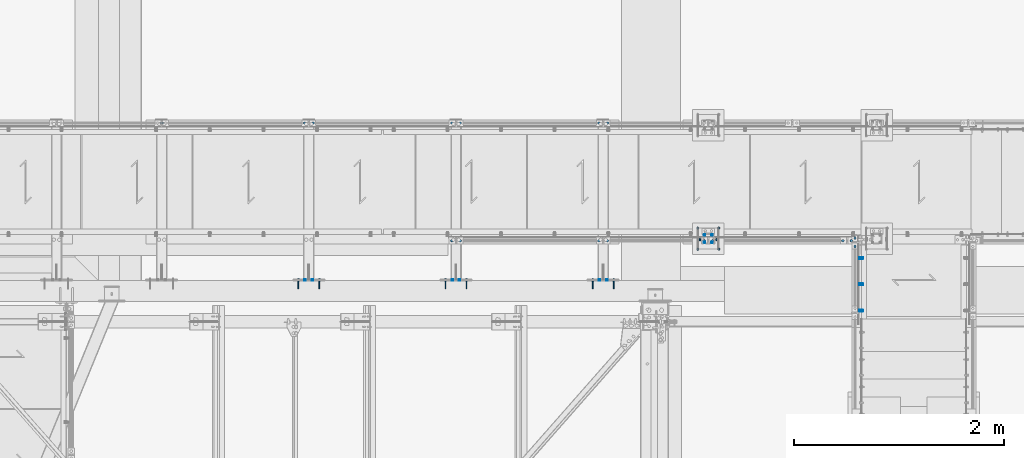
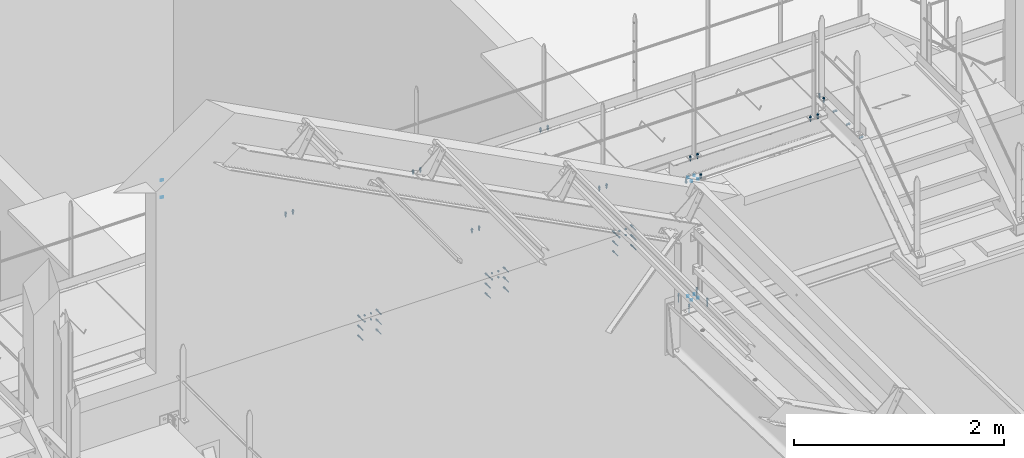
# One storey, part 181 of 362: 20 mechanical fasteners.
"""IFC2X3 building model written with IfcOpenShell, lengths in millimetres."""

from ifc_helpers import new_model, si_unit, frame, frame_2d, origin_with_axes, origin_2d_with_axis, place, context, subcontext, project, spatial, polyline, circle_curve, parameter, trimmed, segment, composite_curve, circle, outline, extrude, source, transform, mapped, material, type_object, element, save


model = new_model("IFC2X3")

# Units and contexts
model_context = context("Model", 3, precision=1e-05, world=origin_with_axes())
body_context = subcontext(model_context, "Body", "Model", "MODEL_VIEW")
ifc_project = project(units=[si_unit("LENGTHUNIT", "METRE", prefix="MILLI"), si_unit("AREAUNIT", "SQUARE_METRE"), si_unit("VOLUMEUNIT", "CUBIC_METRE"), si_unit("MASSUNIT", "GRAM", prefix="KILO"), si_unit("TIMEUNIT", "SECOND"), si_unit("PLANEANGLEUNIT", "RADIAN"), si_unit("SOLIDANGLEUNIT", "STERADIAN"), si_unit("THERMODYNAMICTEMPERATUREUNIT", "DEGREE_CELSIUS"), si_unit("LUMINOUSINTENSITYUNIT", "LUMEN")], contexts=[model_context])

# Site, building, storey
site_placement = place(None, origin_with_axes())
site = spatial("IfcSite", under=ifc_project, at=site_placement, Name="Undefined", CompositionType="ELEMENT")
building_placement = place(site_placement, origin_with_axes())
building = spatial("IfcBuilding", under=site, at=building_placement, Name="Undefined", CompositionType="ELEMENT")
storey_placement = place(building_placement, origin_with_axes())
storey = spatial("IfcBuildingStorey", under=building, at=storey_placement, Name="Undefined", CompositionType="ELEMENT", Elevation=0.0)

# Mechanical fasteners
ifc_material_1 = material(Name="8.8-SB-GALVA")
mechanical_fastener_type = type_object("IfcMechanicalFastenerType", Name="Bolt assembly")
shared_shape_1 = source(origin_with_axes(), body_context, "Body", "SweptSolid", [
    extrude(circle(Radius=7.0, at=origin_2d_with_axis()), frame((0.0, -0.10007666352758, 0.0), z_axis=(0.0, 1.0, 0.0), x_axis=(1.0, 0.0, 0.0)), (0.0, 0.0, 1.0), 12.9),
    extrude(outline(composite_curve([segment(polyline([(-7.0, 7.0), (7.0, 7.0)]), True, "CONTINUOUS"), segment(trimmed(circle_curve(frame_2d((7.0, 0.0), x_axis=(0.0, 1.0)), 7.0), [parameter(0.0)], [parameter(3.14159265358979)], False, "PARAMETER"), True, "CONTINUOUS"), segment(polyline([(7.0, -7.0), (-7.0, -7.0)]), True, "CONTINUOUS"), segment(trimmed(circle_curve(frame_2d((-7.0, 0.0), x_axis=(0.0, -1.0)), 7.0), [parameter(0.0)], [parameter(3.14159265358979)], False, "PARAMETER"), True, "DISCONTINUOUS")], self_intersect=False)), frame((0.0, -9.9, 0.0), z_axis=(0.0, 1.0, 0.0), x_axis=(1.0, 0.0, 0.0)), (0.0, 0.0, 1.0), 10.0),
    extrude(outline(polyline([(10.39230484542, 0.0), (5.19615242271, 9.00000000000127), (-5.19615242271, 9.00000000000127), (-10.39230484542, 0.0), (-5.19615242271, -9.00000000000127), (5.19615242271, -9.00000000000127), (10.39230484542, 0.0)])), frame((0.0, -21.88, 0.0), z_axis=(0.0, 1.0, 0.0), x_axis=(1.0, 0.0, 0.0)), (0.0, 0.0, 1.0), 7.92),
    extrude(circle(Radius=6.0, at=origin_2d_with_axis()), frame((0.0, -13.96, 0.0), z_axis=(0.0, 1.0, 0.0), x_axis=(1.0, 0.0, 0.0)), (0.0, 0.0, 1.0), 50.0),
    extrude(circle(Radius=10.8, at=origin_2d_with_axis()), frame((0.0, -13.96, 0.0), z_axis=(0.0, 1.0, 0.0), x_axis=(1.0, 0.0, 0.0)), (0.0, 0.0, 1.0), 3.96),
    extrude(outline(polyline([(11.5008173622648, 0.0), (5.7504086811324, 9.96000000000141), (-5.7504086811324, 9.96000000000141), (-11.5008173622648, 0.0), (-5.7504086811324, -9.96000000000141), (5.7504086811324, -9.96000000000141), (11.5008173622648, 0.0)])), frame((0.0, 12.7997611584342, 0.0), z_axis=(0.0, 1.0, 0.0), x_axis=(1.0, 0.0, 0.0)), (0.0, 0.0, 1.0), 7.92),
])
mechanical_fastener_1_placement = place(storey_placement, frame((21334.9913124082, 15970.0000882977, 8700.00000001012), z_axis=(0.0, 1.0, 0.0), x_axis=(1.0, 0.0, 0.0)))
element("IfcMechanicalFastener", 1, at=mechanical_fastener_1_placement, inside=storey, type_object=mechanical_fastener_type, material=ifc_material_1, Name="Bolt assembly", NominalDiameter=12.0, NominalLength=50.0, context=body_context, shape_type="MappedRepresentation", body=[
    mapped(shared_shape_1, transform((0.0, 0.0, 0.0))),
    mapped(shared_shape_1, transform((80.0, 0.0, 0.0))),
])
shared_shape_2 = source(origin_with_axes(), body_context, "Body", "SweptSolid", [
    extrude(circle(Radius=7.0, at=origin_2d_with_axis()), frame((0.0, -0.100011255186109, 0.0), z_axis=(0.0, 1.0, 0.0), x_axis=(1.0, 0.0, 0.0)), (0.0, 0.0, 1.0), 12.9),
    extrude(outline(composite_curve([segment(polyline([(-7.0, 7.0), (7.0, 7.0)]), True, "CONTINUOUS"), segment(trimmed(circle_curve(frame_2d((7.0, 0.0), x_axis=(0.0, 1.0)), 7.0), [parameter(0.0)], [parameter(3.14159265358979)], False, "PARAMETER"), True, "CONTINUOUS"), segment(polyline([(7.0, -7.0), (-7.0, -7.0)]), True, "CONTINUOUS"), segment(trimmed(circle_curve(frame_2d((-7.0, 0.0), x_axis=(0.0, -1.0)), 7.0), [parameter(0.0)], [parameter(3.14159265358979)], False, "PARAMETER"), True, "DISCONTINUOUS")], self_intersect=False)), frame((0.0, -9.9, 0.0), z_axis=(0.0, 1.0, 0.0), x_axis=(1.0, 0.0, 0.0)), (0.0, 0.0, 1.0), 10.0),
    extrude(outline(polyline([(10.39230484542, 0.0), (5.19615242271, 9.00000000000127), (-5.19615242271, 9.00000000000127), (-10.39230484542, 0.0), (-5.19615242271, -9.00000000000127), (5.19615242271, -9.00000000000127), (10.39230484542, 0.0)])), frame((0.0, -21.88, 0.0), z_axis=(0.0, 1.0, 0.0), x_axis=(1.0, 0.0, 0.0)), (0.0, 0.0, 1.0), 7.92),
    extrude(circle(Radius=6.0, at=origin_2d_with_axis()), frame((0.0, -13.96, 0.0), z_axis=(0.0, 1.0, 0.0), x_axis=(1.0, 0.0, 0.0)), (0.0, 0.0, 1.0), 50.0),
    extrude(circle(Radius=10.8, at=origin_2d_with_axis()), frame((0.0, -13.96, 0.0), z_axis=(0.0, 1.0, 0.0), x_axis=(1.0, 0.0, 0.0)), (0.0, 0.0, 1.0), 3.96),
    extrude(outline(polyline([(11.5008173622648, 0.0), (5.7504086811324, 9.96000000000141), (-5.7504086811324, 9.96000000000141), (-11.5008173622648, 0.0), (-5.7504086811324, -9.96000000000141), (5.7504086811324, -9.96000000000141), (11.5008173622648, 0.0)])), frame((0.0, 12.7999834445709, 0.0), z_axis=(0.0, 1.0, 0.0), x_axis=(1.0, 0.0, 0.0)), (0.0, 0.0, 1.0), 7.92),
])
mechanical_fastener_2_placement = place(storey_placement, frame((20015.0023796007, 15970.0000882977, 8700.00000001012), z_axis=(0.0, 1.0, 0.0), x_axis=(1.0, 0.0, 0.0)))
element("IfcMechanicalFastener", 2, at=mechanical_fastener_2_placement, inside=storey, type_object=mechanical_fastener_type, material=ifc_material_1, Name="Bolt assembly", NominalDiameter=12.0, NominalLength=50.0, context=body_context, shape_type="MappedRepresentation", body=[
    mapped(shared_shape_2, transform((0.0, 0.0, 0.0))),
    mapped(shared_shape_2, transform((80.0, 0.0, 0.0))),
])
ifc_material_2 = material(Name="6.8")
shared_shape_3 = source(origin_with_axes(), body_context, "Body", "SweptSolid", [
    extrude(circle(Radius=7.0, at=origin_2d_with_axis()), frame((0.0, -12.0, 0.0), z_axis=(0.0, 1.0, 0.0), x_axis=(1.0, 0.0, 0.0)), (0.0, 0.0, 1.0), 12.1),
])
mechanical_fastener_3_placement = place(storey_placement, frame((20055.0, 16025.0001225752, 7050.0), z_axis=(1.0, 0.0, 0.0), x_axis=(0.0, -1.0, 0.0)))
element("IfcMechanicalFastener", 3, at=mechanical_fastener_3_placement, inside=storey, type_object=mechanical_fastener_type, material=ifc_material_2, Name="Bolt assembly", NominalDiameter=12.0, NominalLength=12.0, context=body_context, shape_type="MappedRepresentation", body=[
    mapped(shared_shape_3, transform((0.0, 0.0, 35.0))),
    mapped(shared_shape_3, transform((70.0, 0.0, 35.0))),
    mapped(shared_shape_3, transform((0.0, 0.0, -35.0))),
    mapped(shared_shape_3, transform((70.0, 0.0, -35.0))),
])
for number, where, z_axis, x_axis, name in (
    (4, (19055.0007605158, 15589.99984642, 8355.0), (1.0, 0.0, 0.0), (0.0, 0.0, 1.0), "Bolt assembly"),
    (5, (17655.0007605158, 15589.99984642, 8355.0), (1.0, 0.0, 0.0), (0.0, 0.0, 1.0), "Bolt assembly"),
    (6, (16255.0007605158, 15589.99984642, 8355.0), (1.0, 0.0, 0.0), (0.0, 0.0, 1.0), "Bolt assembly"),
):
    element("IfcMechanicalFastener", number, at=place(storey_placement, frame(where, z_axis=z_axis, x_axis=x_axis)), inside=storey, type_object=mechanical_fastener_type, material=ifc_material_2, Name=name, NominalDiameter=12.0, NominalLength=12.0, context=body_context, shape_type="MappedRepresentation", body=[
        mapped(shared_shape_3, transform((0.0, 0.0, -35.0))),
        mapped(shared_shape_3, transform((70.0, 0.0, -35.0))),
        mapped(shared_shape_3, transform((0.0, 0.0, 35.0))),
        mapped(shared_shape_3, transform((70.0, 0.0, 35.0))),
    ])
ifc_material_3 = material(Name="HILTI-HSA-R")
shared_shape_4 = source(origin_with_axes(), body_context, "Body", "SweptSolid", [
    extrude(circle(Radius=7.0, at=origin_2d_with_axis()), frame((0.0, -12.0, 0.0), z_axis=(0.0, 1.0, 0.0), x_axis=(1.0, 0.0, 0.0)), (0.0, 0.0, 1.0), 12.1),
    extrude(outline(polyline([(10.39230484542, 0.0), (5.19615242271, 9.00000000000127), (-5.19615242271, 9.00000000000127), (-10.39230484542, 0.0), (-5.19615242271, -9.00000000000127), (5.19615242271, -9.00000000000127), (10.39230484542, 0.0)])), frame((0.0, -19.92, 0.0), z_axis=(0.0, 1.0, 0.0), x_axis=(1.0, 0.0, 0.0)), (0.0, 0.0, 1.0), 7.92),
    extrude(circle(Radius=6.0, at=origin_2d_with_axis()), frame((0.0, -12.0, 0.0), z_axis=(0.0, 1.0, 0.0), x_axis=(1.0, 0.0, 0.0)), (0.0, 0.0, 1.0), 89.2),
    extrude(outline(polyline([(11.5008173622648, 0.0), (5.7504086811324, 9.96000000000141), (-5.7504086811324, 9.96000000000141), (-11.5008173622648, 0.0), (-5.7504086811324, -9.96000000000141), (5.7504086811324, -9.96000000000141), (11.5008173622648, 0.0)])), frame((0.0, 0.0, 0.0), z_axis=(0.0, 1.0, 0.0), x_axis=(1.0, 0.0, 0.0)), (0.0, 0.0, 1.0), 7.92),
])
mechanical_fastener_4_placement = place(storey_placement, frame((20055.0, 16090.0001225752, 7050.0), z_axis=(1.0, 0.0, 0.0), x_axis=(0.0, -1.0, 0.0)))
element("IfcMechanicalFastener", 7, at=mechanical_fastener_4_placement, inside=storey, type_object=mechanical_fastener_type, material=ifc_material_3, Name="Bolt assembly", NominalDiameter=12.0, NominalLength=89.1999969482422, context=body_context, shape_type="MappedRepresentation", body=[
    mapped(shared_shape_4, transform((0.0, 0.0, 100.0))),
    mapped(shared_shape_4, transform((200.0, 0.0, 100.0))),
    mapped(shared_shape_4, transform((0.0, 0.0, -100.0))),
    mapped(shared_shape_4, transform((200.0, 0.0, -100.0))),
])
for number, where, z_axis, x_axis, name in (
    (8, (19055.0007605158, 15589.99984642, 8210.0), (1.0, 0.0, 0.0), (0.0, 0.0, 1.0), "Bolt assembly"),
    (9, (17655.0007605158, 15589.99984642, 8210.0), (1.0, 0.0, 0.0), (0.0, 0.0, 1.0), "Bolt assembly"),
    (10, (16255.0007605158, 15589.99984642, 8210.0), (1.0, 0.0, 0.0), (0.0, 0.0, 1.0), "Bolt assembly"),
):
    element("IfcMechanicalFastener", number, at=place(storey_placement, frame(where, z_axis=z_axis, x_axis=x_axis)), inside=storey, type_object=mechanical_fastener_type, material=ifc_material_3, Name=name, NominalDiameter=12.0, NominalLength=89.1999969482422, context=body_context, shape_type="MappedRepresentation", body=[
        mapped(shared_shape_4, transform((0.0, 0.0, -100.0))),
        mapped(shared_shape_4, transform((115.0, 0.0, -100.0))),
        mapped(shared_shape_4, transform((230.0, 0.0, -100.0))),
        mapped(shared_shape_4, transform((0.0, 0.0, 100.0))),
        mapped(shared_shape_4, transform((115.0, 0.0, 100.0))),
        mapped(shared_shape_4, transform((230.0, 0.0, 100.0))),
    ])
shared_shape_5 = source(origin_with_axes(), body_context, "Body", "SweptSolid", [
    extrude(circle(Radius=7.0, at=origin_2d_with_axis()), frame((0.0, -0.100385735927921, 0.0), z_axis=(0.0, 1.0, 0.0), x_axis=(1.0, 0.0, 0.0)), (0.0, 0.0, 1.0), 12.9),
    extrude(outline(composite_curve([segment(polyline([(-7.0, 7.0), (7.0, 7.0)]), True, "CONTINUOUS"), segment(trimmed(circle_curve(frame_2d((7.0, 0.0), x_axis=(0.0, 1.0)), 7.0), [parameter(0.0)], [parameter(3.14159265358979)], False, "PARAMETER"), True, "CONTINUOUS"), segment(polyline([(7.0, -7.0), (-7.0, -7.0)]), True, "CONTINUOUS"), segment(trimmed(circle_curve(frame_2d((-7.0, 0.0), x_axis=(0.0, -1.0)), 7.0), [parameter(0.0)], [parameter(3.14159265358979)], False, "PARAMETER"), True, "DISCONTINUOUS")], self_intersect=False)), frame((0.0, -9.9, 0.0), z_axis=(0.0, 1.0, 0.0), x_axis=(1.0, 0.0, 0.0)), (0.0, 0.0, 1.0), 10.0),
    extrude(outline(polyline([(10.39230484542, 0.0), (5.19615242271, 9.00000000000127), (-5.19615242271, 9.00000000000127), (-10.39230484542, 0.0), (-5.19615242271, -9.00000000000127), (5.19615242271, -9.00000000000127), (10.39230484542, 0.0)])), frame((0.0, -21.88, 0.0), z_axis=(0.0, 1.0, 0.0), x_axis=(1.0, 0.0, 0.0)), (0.0, 0.0, 1.0), 7.92),
    extrude(circle(Radius=6.0, at=origin_2d_with_axis()), frame((0.0, -13.96, 0.0), z_axis=(0.0, 1.0, 0.0), x_axis=(1.0, 0.0, 0.0)), (0.0, 0.0, 1.0), 50.0),
    extrude(circle(Radius=10.8, at=origin_2d_with_axis()), frame((0.0, -13.96, 0.0), z_axis=(0.0, 1.0, 0.0), x_axis=(1.0, 0.0, 0.0)), (0.0, 0.0, 1.0), 3.96),
    extrude(outline(polyline([(11.5008173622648, 0.0), (5.7504086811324, 9.96000000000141), (-5.7504086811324, 9.96000000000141), (-11.5008173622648, 0.0), (-5.7504086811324, -9.96000000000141), (5.7504086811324, -9.96000000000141), (11.5008173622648, 0.0)])), frame((0.0, 12.7997094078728, 0.0), z_axis=(0.0, 1.0, 0.0), x_axis=(1.0, 0.0, 0.0)), (0.0, 0.0, 1.0), 7.92),
])
mechanical_fastener_5_placement = place(storey_placement, frame((19015.0023796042, 15970.0000882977, 8700.00000001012), z_axis=(0.0, 1.0, 0.0), x_axis=(1.0, 0.0, 0.0)))
element("IfcMechanicalFastener", 11, at=mechanical_fastener_5_placement, inside=storey, type_object=mechanical_fastener_type, material=ifc_material_1, Name="Bolt assembly", NominalDiameter=12.0, NominalLength=50.0, context=body_context, shape_type="MappedRepresentation", body=[
    mapped(shared_shape_5, transform((0.0, 0.0, 0.0))),
    mapped(shared_shape_5, transform((80.0, 0.0, 0.0))),
])
shared_shape_6 = source(origin_with_axes(), body_context, "Body", "SweptSolid", [
    extrude(circle(Radius=7.0, at=origin_2d_with_axis()), frame((0.0, -0.100259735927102, 0.0), z_axis=(0.0, 1.0, 0.0), x_axis=(1.0, 0.0, 0.0)), (0.0, 0.0, 1.0), 12.9),
    extrude(outline(composite_curve([segment(polyline([(-7.0, 7.0), (7.0, 7.0)]), True, "CONTINUOUS"), segment(trimmed(circle_curve(frame_2d((7.0, 0.0), x_axis=(0.0, 1.0)), 7.0), [parameter(0.0)], [parameter(3.14159265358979)], False, "PARAMETER"), True, "CONTINUOUS"), segment(polyline([(7.0, -7.0), (-7.0, -7.0)]), True, "CONTINUOUS"), segment(trimmed(circle_curve(frame_2d((-7.0, 0.0), x_axis=(0.0, -1.0)), 7.0), [parameter(0.0)], [parameter(3.14159265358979)], False, "PARAMETER"), True, "DISCONTINUOUS")], self_intersect=False)), frame((0.0, -9.9, 0.0), z_axis=(0.0, 1.0, 0.0), x_axis=(1.0, 0.0, 0.0)), (0.0, 0.0, 1.0), 10.0),
    extrude(outline(polyline([(10.39230484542, 0.0), (5.19615242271, 9.00000000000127), (-5.19615242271, 9.00000000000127), (-10.39230484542, 0.0), (-5.19615242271, -9.00000000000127), (5.19615242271, -9.00000000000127), (10.39230484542, 0.0)])), frame((0.0, -21.88, 0.0), z_axis=(0.0, 1.0, 0.0), x_axis=(1.0, 0.0, 0.0)), (0.0, 0.0, 1.0), 7.92),
    extrude(circle(Radius=6.0, at=origin_2d_with_axis()), frame((0.0, -13.96, 0.0), z_axis=(0.0, 1.0, 0.0), x_axis=(1.0, 0.0, 0.0)), (0.0, 0.0, 1.0), 50.0),
    extrude(circle(Radius=10.8, at=origin_2d_with_axis()), frame((0.0, -13.96, 0.0), z_axis=(0.0, 1.0, 0.0), x_axis=(1.0, 0.0, 0.0)), (0.0, 0.0, 1.0), 3.96),
    extrude(outline(polyline([(11.5008173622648, 0.0), (5.7504086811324, 9.96000000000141), (-5.7504086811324, 9.96000000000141), (-11.5008173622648, 0.0), (-5.7504086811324, -9.96000000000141), (5.7504086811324, -9.96000000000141), (11.5008173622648, 0.0)])), frame((0.0, 12.7997611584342, 0.0), z_axis=(0.0, 1.0, 0.0), x_axis=(1.0, 0.0, 0.0)), (0.0, 0.0, 1.0), 7.92),
])
mechanical_fastener_6_placement = place(storey_placement, frame((17615.0023796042, 15970.0000882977, 8700.00000001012), z_axis=(0.0, 1.0, 0.0), x_axis=(1.0, 0.0, 0.0)))
element("IfcMechanicalFastener", 12, at=mechanical_fastener_6_placement, inside=storey, type_object=mechanical_fastener_type, material=ifc_material_1, Name="Bolt assembly", NominalDiameter=12.0, NominalLength=50.0, context=body_context, shape_type="MappedRepresentation", body=[
    mapped(shared_shape_6, transform((0.0, 0.0, 0.0))),
    mapped(shared_shape_6, transform((80.0, 0.0, 0.0))),
])
shared_shape_7 = source(origin_with_axes(), body_context, "Body", "SweptSolid", [
    extrude(circle(Radius=5.0, at=origin_2d_with_axis()), frame((0.0, -0.100011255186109, 0.0), z_axis=(0.0, 1.0, 0.0), x_axis=(1.0, 0.0, 0.0)), (0.0, 0.0, 1.0), 5.1),
    extrude(circle(Radius=5.0, at=origin_2d_with_axis()), frame((0.0, -4.90000000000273, 0.0), z_axis=(0.0, 1.0, 0.0), x_axis=(1.0, 0.0, 0.0)), (0.0, 0.0, 1.0), 5.0),
    extrude(outline(polyline([(7.50555349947, 0.0), (3.752776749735, 6.50000000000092), (-3.752776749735, 6.50000000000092), (-7.50555349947, 0.0), (-3.752776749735, -6.50000000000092), (3.752776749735, -6.50000000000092), (7.50555349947, 0.0)])), frame((0.0, -10.5000000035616, 0.0), z_axis=(0.0, 1.0, 0.0), x_axis=(1.0, 0.0, 0.0)), (0.0, 0.0, 1.0), 5.5),
    extrude(circle(Radius=4.0, at=origin_2d_with_axis()), frame((0.0, -5.00000000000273, 0.0), z_axis=(0.0, 1.0, 0.0), x_axis=(1.0, 0.0, 0.0)), (0.0, 0.0, 1.0), 20.0),
    extrude(outline(polyline([(7.50555349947, 0.0), (3.752776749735, 6.50000000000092), (-3.752776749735, 6.50000000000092), (-7.50555349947, 0.0), (-3.752776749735, -6.50000000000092), (3.752776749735, -6.50000000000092), (7.50555349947, 0.0)])), frame((0.0, 5.0, 0.0), z_axis=(0.0, 1.0, 0.0), x_axis=(1.0, 0.0, 0.0)), (0.0, 0.0, 1.0), 6.8),
])
mechanical_fastener_7_placement = place(storey_placement, frame((14854.9961849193, 17089.9938659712, 9368.80000001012), z_axis=(0.0, 1.0, 0.0), x_axis=(0.0, 0.0, 1.0)))
element("IfcMechanicalFastener", 13, at=mechanical_fastener_7_placement, inside=storey, type_object=mechanical_fastener_type, material=ifc_material_2, Name="Bolt assembly", NominalDiameter=8.0, NominalLength=20.0, context=body_context, shape_type="MappedRepresentation", body=[
    mapped(shared_shape_7, transform((0.0, 0.0, 0.0))),
    mapped(shared_shape_7, transform((200.0, 0.0, 0.0))),
])
shared_shape_8 = source(origin_with_axes(), body_context, "Body", "SweptSolid", [
    extrude(circle(Radius=7.0, at=origin_2d_with_axis()), frame((0.0, -0.100385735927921, 0.0), z_axis=(0.0, 1.0, 0.0), x_axis=(1.0, 0.0, 0.0)), (0.0, 0.0, 1.0), 12.9),
    extrude(outline(composite_curve([segment(polyline([(-7.0, 7.0), (7.0, 7.0)]), True, "CONTINUOUS"), segment(trimmed(circle_curve(frame_2d((7.0, 0.0), x_axis=(0.0, 1.0)), 7.0), [parameter(0.0)], [parameter(3.14159265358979)], False, "PARAMETER"), True, "CONTINUOUS"), segment(polyline([(7.0, -7.0), (-7.0, -7.0)]), True, "CONTINUOUS"), segment(trimmed(circle_curve(frame_2d((-7.0, 0.0), x_axis=(0.0, -1.0)), 7.0), [parameter(0.0)], [parameter(3.14159265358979)], False, "PARAMETER"), True, "DISCONTINUOUS")], self_intersect=False)), frame((0.0, -9.9, 0.0), z_axis=(0.0, 1.0, 0.0), x_axis=(1.0, 0.0, 0.0)), (0.0, 0.0, 1.0), 10.0),
    extrude(outline(polyline([(10.39230484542, 0.0), (5.19615242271, 9.00000000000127), (-5.19615242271, 9.00000000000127), (-10.39230484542, 0.0), (-5.19615242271, -9.00000000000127), (5.19615242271, -9.00000000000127), (10.39230484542, 0.0)])), frame((0.0, -21.88, 0.0), z_axis=(0.0, 1.0, 0.0), x_axis=(1.0, 0.0, 0.0)), (0.0, 0.0, 1.0), 7.92),
    extrude(circle(Radius=6.0, at=origin_2d_with_axis()), frame((0.0, -13.96, 0.0), z_axis=(0.0, 1.0, 0.0), x_axis=(1.0, 0.0, 0.0)), (0.0, 0.0, 1.0), 50.0),
    extrude(circle(Radius=10.8, at=origin_2d_with_axis()), frame((0.0, -13.96, 0.0), z_axis=(0.0, 1.0, 0.0), x_axis=(1.0, 0.0, 0.0)), (0.0, 0.0, 1.0), 3.96),
    extrude(outline(polyline([(11.5008173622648, 0.0), (5.7504086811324, 9.96000000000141), (-5.7504086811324, 9.96000000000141), (-11.5008173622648, 0.0), (-5.7504086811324, -9.96000000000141), (5.7504086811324, -9.96000000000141), (11.5008173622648, 0.0)])), frame((0.0, 12.7999834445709, 0.0), z_axis=(0.0, 1.0, 0.0), x_axis=(1.0, 0.0, 0.0)), (0.0, 0.0, 1.0), 7.92),
])
mechanical_fastener_8_placement = place(storey_placement, frame((19015.0023796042, 17089.9938659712, 8700.00000001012), z_axis=(0.0, 1.0, 0.0), x_axis=(1.0, 0.0, 0.0)))
element("IfcMechanicalFastener", 14, at=mechanical_fastener_8_placement, inside=storey, type_object=mechanical_fastener_type, material=ifc_material_1, Name="Bolt assembly", NominalDiameter=12.0, NominalLength=50.0, context=body_context, shape_type="MappedRepresentation", body=[
    mapped(shared_shape_8, transform((0.0, 0.0, 0.0))),
    mapped(shared_shape_8, transform((80.0, 0.0, 0.0))),
])
shared_shape_9 = source(origin_with_axes(), body_context, "Body", "SweptSolid", [
    extrude(circle(Radius=7.0, at=origin_2d_with_axis()), frame((0.0, -0.100259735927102, 0.0), z_axis=(0.0, 1.0, 0.0), x_axis=(1.0, 0.0, 0.0)), (0.0, 0.0, 1.0), 12.9),
    extrude(outline(composite_curve([segment(polyline([(-7.0, 7.0), (7.0, 7.0)]), True, "CONTINUOUS"), segment(trimmed(circle_curve(frame_2d((7.0, 0.0), x_axis=(0.0, 1.0)), 7.0), [parameter(0.0)], [parameter(3.14159265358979)], False, "PARAMETER"), True, "CONTINUOUS"), segment(polyline([(7.0, -7.0), (-7.0, -7.0)]), True, "CONTINUOUS"), segment(trimmed(circle_curve(frame_2d((-7.0, 0.0), x_axis=(0.0, -1.0)), 7.0), [parameter(0.0)], [parameter(3.14159265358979)], False, "PARAMETER"), True, "DISCONTINUOUS")], self_intersect=False)), frame((0.0, -9.9, 0.0), z_axis=(0.0, 1.0, 0.0), x_axis=(1.0, 0.0, 0.0)), (0.0, 0.0, 1.0), 10.0),
    extrude(outline(polyline([(10.39230484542, 0.0), (5.19615242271, 9.00000000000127), (-5.19615242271, 9.00000000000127), (-10.39230484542, 0.0), (-5.19615242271, -9.00000000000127), (5.19615242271, -9.00000000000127), (10.39230484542, 0.0)])), frame((0.0, -21.88, 0.0), z_axis=(0.0, 1.0, 0.0), x_axis=(1.0, 0.0, 0.0)), (0.0, 0.0, 1.0), 7.92),
    extrude(circle(Radius=6.0, at=origin_2d_with_axis()), frame((0.0, -13.96, 0.0), z_axis=(0.0, 1.0, 0.0), x_axis=(1.0, 0.0, 0.0)), (0.0, 0.0, 1.0), 50.0),
    extrude(circle(Radius=10.8, at=origin_2d_with_axis()), frame((0.0, -13.96, 0.0), z_axis=(0.0, 1.0, 0.0), x_axis=(1.0, 0.0, 0.0)), (0.0, 0.0, 1.0), 3.96),
    extrude(outline(polyline([(11.5008173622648, 0.0), (5.7504086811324, 9.96000000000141), (-5.7504086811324, 9.96000000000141), (-11.5008173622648, 0.0), (-5.7504086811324, -9.96000000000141), (5.7504086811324, -9.96000000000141), (11.5008173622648, 0.0)])), frame((0.0, 12.7999834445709, 0.0), z_axis=(0.0, 1.0, 0.0), x_axis=(1.0, 0.0, 0.0)), (0.0, 0.0, 1.0), 7.92),
])
mechanical_fastener_9_placement = place(storey_placement, frame((17615.0023796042, 17089.9938659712, 8700.00000001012), z_axis=(0.0, 1.0, 0.0), x_axis=(1.0, 0.0, 0.0)))
element("IfcMechanicalFastener", 15, at=mechanical_fastener_9_placement, inside=storey, type_object=mechanical_fastener_type, material=ifc_material_1, Name="Bolt assembly", NominalDiameter=12.0, NominalLength=50.0, context=body_context, shape_type="MappedRepresentation", body=[
    mapped(shared_shape_9, transform((0.0, 0.0, 0.0))),
    mapped(shared_shape_9, transform((80.0, 0.0, 0.0))),
])
shared_shape_10 = source(origin_with_axes(), body_context, "Body", "SweptSolid", [
    extrude(circle(Radius=7.0, at=origin_2d_with_axis()), frame((0.0, -0.100155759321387, 0.0), z_axis=(0.0, 1.0, 0.0), x_axis=(1.0, 0.0, 0.0)), (0.0, 0.0, 1.0), 12.9),
    extrude(outline(composite_curve([segment(polyline([(-7.0, 7.0), (7.0, 7.0)]), True, "CONTINUOUS"), segment(trimmed(circle_curve(frame_2d((7.0, 0.0), x_axis=(0.0, 1.0)), 7.0), [parameter(0.0)], [parameter(3.14159265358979)], False, "PARAMETER"), True, "CONTINUOUS"), segment(polyline([(7.0, -7.0), (-7.0, -7.0)]), True, "CONTINUOUS"), segment(trimmed(circle_curve(frame_2d((-7.0, 0.0), x_axis=(0.0, -1.0)), 7.0), [parameter(0.0)], [parameter(3.14159265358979)], False, "PARAMETER"), True, "DISCONTINUOUS")], self_intersect=False)), frame((0.0, -9.9, 0.0), z_axis=(0.0, 1.0, 0.0), x_axis=(1.0, 0.0, 0.0)), (0.0, 0.0, 1.0), 10.0),
    extrude(outline(polyline([(10.39230484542, 0.0), (5.19615242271, 9.00000000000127), (-5.19615242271, 9.00000000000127), (-10.39230484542, 0.0), (-5.19615242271, -9.00000000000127), (5.19615242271, -9.00000000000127), (10.39230484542, 0.0)])), frame((0.0, -21.88, 0.0), z_axis=(0.0, 1.0, 0.0), x_axis=(1.0, 0.0, 0.0)), (0.0, 0.0, 1.0), 7.92),
    extrude(circle(Radius=6.0, at=origin_2d_with_axis()), frame((0.0, -13.96, 0.0), z_axis=(0.0, 1.0, 0.0), x_axis=(1.0, 0.0, 0.0)), (0.0, 0.0, 1.0), 50.0),
    extrude(circle(Radius=10.8, at=origin_2d_with_axis()), frame((0.0, -13.96, 0.0), z_axis=(0.0, 1.0, 0.0), x_axis=(1.0, 0.0, 0.0)), (0.0, 0.0, 1.0), 3.96),
    extrude(outline(polyline([(11.5008173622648, 0.0), (5.7504086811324, 9.96000000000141), (-5.7504086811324, 9.96000000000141), (-11.5008173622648, 0.0), (-5.7504086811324, -9.96000000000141), (5.7504086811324, -9.96000000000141), (11.5008173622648, 0.0)])), frame((0.0, 12.7999834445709, 0.0), z_axis=(0.0, 1.0, 0.0), x_axis=(1.0, 0.0, 0.0)), (0.0, 0.0, 1.0), 7.92),
])
mechanical_fastener_10_placement = place(storey_placement, frame((16215.0023796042, 17089.9938659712, 8700.00000001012), z_axis=(0.0, 1.0, 0.0), x_axis=(1.0, 0.0, 0.0)))
element("IfcMechanicalFastener", 16, at=mechanical_fastener_10_placement, inside=storey, type_object=mechanical_fastener_type, material=ifc_material_1, Name="Bolt assembly", NominalDiameter=12.0, NominalLength=50.0, context=body_context, shape_type="MappedRepresentation", body=[
    mapped(shared_shape_10, transform((0.0, 0.0, 0.0))),
    mapped(shared_shape_10, transform((80.0, 0.0, 0.0))),
])
shared_shape_11 = source(origin_with_axes(), body_context, "Body", "SweptSolid", [
    extrude(circle(Radius=7.0, at=origin_2d_with_axis()), frame((0.0, -0.100011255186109, 0.0), z_axis=(0.0, 1.0, 0.0), x_axis=(1.0, 0.0, 0.0)), (0.0, 0.0, 1.0), 12.9),
    extrude(outline(composite_curve([segment(polyline([(-7.0, 7.0), (7.0, 7.0)]), True, "CONTINUOUS"), segment(trimmed(circle_curve(frame_2d((7.0, 0.0), x_axis=(0.0, 1.0)), 7.0), [parameter(0.0)], [parameter(3.14159265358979)], False, "PARAMETER"), True, "CONTINUOUS"), segment(polyline([(7.0, -7.0), (-7.0, -7.0)]), True, "CONTINUOUS"), segment(trimmed(circle_curve(frame_2d((-7.0, 0.0), x_axis=(0.0, -1.0)), 7.0), [parameter(0.0)], [parameter(3.14159265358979)], False, "PARAMETER"), True, "DISCONTINUOUS")], self_intersect=False)), frame((0.0, -9.9, 0.0), z_axis=(0.0, 1.0, 0.0), x_axis=(1.0, 0.0, 0.0)), (0.0, 0.0, 1.0), 10.0),
    extrude(outline(polyline([(10.39230484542, 0.0), (5.19615242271, 9.00000000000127), (-5.19615242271, 9.00000000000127), (-10.39230484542, 0.0), (-5.19615242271, -9.00000000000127), (5.19615242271, -9.00000000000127), (10.39230484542, 0.0)])), frame((0.0, -21.88, 0.0), z_axis=(0.0, 1.0, 0.0), x_axis=(1.0, 0.0, 0.0)), (0.0, 0.0, 1.0), 7.92),
    extrude(circle(Radius=6.0, at=origin_2d_with_axis()), frame((0.0, -13.96, 0.0), z_axis=(0.0, 1.0, 0.0), x_axis=(1.0, 0.0, 0.0)), (0.0, 0.0, 1.0), 50.0),
    extrude(circle(Radius=10.8, at=origin_2d_with_axis()), frame((0.0, -13.96, 0.0), z_axis=(0.0, 1.0, 0.0), x_axis=(1.0, 0.0, 0.0)), (0.0, 0.0, 1.0), 3.96),
    extrude(outline(polyline([(11.5008173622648, 0.0), (5.7504086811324, 9.96000000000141), (-5.7504086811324, 9.96000000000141), (-11.5008173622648, 0.0), (-5.7504086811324, -9.96000000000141), (5.7504086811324, -9.96000000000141), (11.5008173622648, 0.0)])), frame((0.0, 12.7987010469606, 0.0), z_axis=(0.0, 1.0, 0.0), x_axis=(1.0, 0.0, 0.0)), (0.0, 0.0, 1.0), 7.92),
])
mechanical_fastener_11_placement = place(storey_placement, frame((21449.9863365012, 15914.9996531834, 8910.0), z_axis=(-1.0, 0.0, 0.0), x_axis=(0.0, 1.0, 0.0)))
element("IfcMechanicalFastener", 17, at=mechanical_fastener_11_placement, inside=storey, type_object=mechanical_fastener_type, material=ifc_material_1, Name="Bolt assembly", NominalDiameter=12.0, NominalLength=50.0, context=body_context, shape_type="MappedRepresentation", body=[
    mapped(shared_shape_11, transform((0.0, 0.0, 0.0))),
    mapped(shared_shape_11, transform((80.0, 0.0, 0.0))),
])
shared_shape_12 = source(origin_with_axes(), body_context, "Body", "SweptSolid", [
    extrude(circle(Radius=7.0, at=origin_2d_with_axis()), frame((0.0, -13.4999650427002, 0.0), z_axis=(0.0, 1.0, 0.0), x_axis=(1.0, 0.0, 0.0)), (0.0, 0.0, 1.0), 13.6),
    extrude(circle(Radius=7.0, at=origin_2d_with_axis()), frame((0.0, -0.10007666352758, 0.0), z_axis=(0.0, 1.0, 0.0), x_axis=(1.0, 0.0, 0.0)), (0.0, 0.0, 1.0), 8.1),
    extrude(outline(polyline([(10.39230484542, 0.0), (5.19615242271, 9.00000000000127), (-5.19615242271, 9.00000000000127), (-10.39230484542, 0.0), (-5.19615242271, -9.00000000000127), (5.19615242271, -9.00000000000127), (10.39230484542, 0.0)])), frame((0.0, -21.5199650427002, 0.0), z_axis=(0.0, 1.0, 0.0), x_axis=(1.0, 0.0, 0.0)), (0.0, 0.0, 1.0), 7.92),
    extrude(circle(Radius=6.0, at=origin_2d_with_axis()), frame((0.0, -13.5999650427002, 0.0), z_axis=(0.0, 1.0, 0.0), x_axis=(1.0, 0.0, 0.0)), (0.0, 0.0, 1.0), 40.0),
    extrude(outline(polyline([(11.5008173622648, 0.0), (5.7504086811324, 9.96000000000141), (-5.7504086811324, 9.96000000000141), (-11.5008173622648, 0.0), (-5.7504086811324, -9.96000000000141), (5.7504086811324, -9.96000000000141), (11.5008173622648, 0.0)])), frame((0.0, 7.99992914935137, 0.0), z_axis=(0.0, 1.0, 0.0), x_axis=(1.0, 0.0, 0.0)), (0.0, 0.0, 1.0), 7.92),
])
mechanical_fastener_12_placement = place(storey_placement, frame((20055.0, 15980.0001225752, 8440.00004576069), z_axis=(-1.0, 0.0, 0.0), x_axis=(0.0, 1.0, 0.0)))
element("IfcMechanicalFastener", 18, at=mechanical_fastener_12_placement, inside=storey, type_object=mechanical_fastener_type, material=ifc_material_1, Name="Bolt assembly", NominalDiameter=12.0, NominalLength=40.0, context=body_context, shape_type="MappedRepresentation", body=[
    mapped(shared_shape_12, transform((0.0, 0.0, 80.0))),
    mapped(shared_shape_12, transform((0.0, 0.0, -80.0))),
])
shared_shape_13 = source(origin_with_axes(), body_context, "Body", "SweptSolid", [
    extrude(circle(Radius=7.0, at=origin_2d_with_axis()), frame((0.0, 0.0, 0.0), z_axis=(0.0, 1.0, 0.0), x_axis=(1.0, 0.0, 0.0)), (0.0, 0.0, 1.0), 8.1),
])
mechanical_fastener_13_placement = place(storey_placement, frame((20055.0, 16025.0001225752, 8440.00011661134), z_axis=(1.0, 0.0, 0.0), x_axis=(0.0, -1.0, 0.0)))
element("IfcMechanicalFastener", 19, at=mechanical_fastener_13_placement, inside=storey, type_object=mechanical_fastener_type, material=ifc_material_2, Name="Bolt assembly", NominalDiameter=12.0, NominalLength=8.0, context=body_context, shape_type="MappedRepresentation", body=[
    mapped(shared_shape_13, transform((0.0, 0.0, 35.0))),
    mapped(shared_shape_13, transform((70.0, 0.0, 35.0))),
    mapped(shared_shape_13, transform((0.0, 0.0, -35.0))),
    mapped(shared_shape_13, transform((70.0, 0.0, -35.0))),
])
shared_shape_14 = source(origin_with_axes(), body_context, "Body", "SweptSolid", [
    extrude(circle(Radius=7.0, at=origin_2d_with_axis()), frame((0.0, -14.8962968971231, 0.0), z_axis=(0.0, 1.0, 0.0), x_axis=(1.0, 0.0, 0.0)), (0.0, 0.0, 1.0), 10.0),
    extrude(circle(Radius=7.0, at=origin_2d_with_axis()), frame((0.0, -5.09380520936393, 0.0), z_axis=(0.0, 1.0, 0.0), x_axis=(1.0, 0.0, 0.0)), (0.0, 0.0, 1.0), 5.1),
    extrude(outline(polyline([(10.39230484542, 0.0), (5.19615242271, 9.00000000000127), (-5.19615242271, 9.00000000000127), (-10.39230484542, 0.0), (-5.19615242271, -9.00000000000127), (5.19615242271, -9.00000000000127), (10.39230484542, 0.0)])), frame((0.0, -22.9162968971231, 0.0), z_axis=(0.0, 1.0, 0.0), x_axis=(1.0, 0.0, 0.0)), (0.0, 0.0, 1.0), 7.92),
    extrude(circle(Radius=6.0, at=origin_2d_with_axis()), frame((0.0, -14.9962968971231, 0.0), z_axis=(0.0, 1.0, 0.0), x_axis=(1.0, 0.0, 0.0)), (0.0, 0.0, 1.0), 30.0),
    extrude(outline(polyline([(11.5008173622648, 0.0), (5.7504086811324, 9.96000000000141), (-5.7504086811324, 9.96000000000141), (-11.5008173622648, 0.0), (-5.7504086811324, -9.96000000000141), (5.7504086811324, -9.96000000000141), (11.5008173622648, 0.0)])), frame((0.0, 0.00619479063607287, 0.0), z_axis=(0.0, 1.0, 0.0), x_axis=(1.0, 0.0, 0.0)), (0.0, 0.0, 1.0), 7.92),
])
mechanical_fastener_14_placement = place(storey_placement, frame((21514.9999903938, 15555.0058468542, 8820.0), z_axis=(0.0, 1.0, 0.0), x_axis=(0.0, 0.0, 1.0)))
element("IfcMechanicalFastener", 20, at=mechanical_fastener_14_placement, inside=storey, type_object=mechanical_fastener_type, material=ifc_material_1, Name="Bolt assembly", NominalDiameter=12.0, NominalLength=30.0, context=body_context, shape_type="MappedRepresentation", body=[
    mapped(shared_shape_14, transform((0.0, 0.0, -250.0))),
    mapped(shared_shape_14, transform((0.0, 0.0, 0.0))),
    mapped(shared_shape_14, transform((0.0, 0.0, 250.0))),
])

save(model, "model.ifc")
